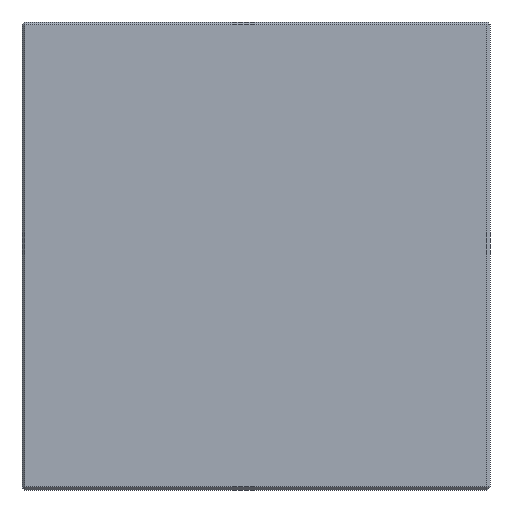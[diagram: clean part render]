
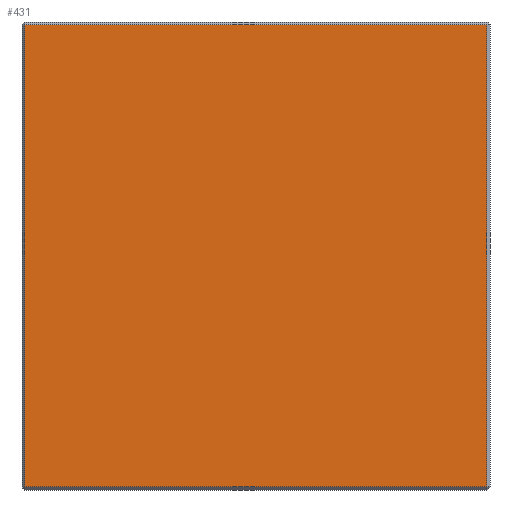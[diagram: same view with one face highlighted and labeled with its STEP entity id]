
A CAD part, front view. The second image highlights one B-rep face of the part: STEP entity #431.
In plain terms, the highlighted planar face has unit normal (0, -1, 0).
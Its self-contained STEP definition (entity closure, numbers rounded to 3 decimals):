
#20 = ORIENTED_EDGE ( 'NONE', *, *, #156, .T. ) ;
#26 = DIRECTION ( 'NONE',  ( 1., 0., 0. ) ) ;
#40 = ORIENTED_EDGE ( 'NONE', *, *, #337, .T. ) ;
#70 = VECTOR ( 'NONE', #209, 1000. ) ;
#85 = CARTESIAN_POINT ( 'NONE',  ( 0., 0., 77. ) ) ;
#116 = DIRECTION ( 'NONE',  ( -1., 0., 0. ) ) ;
#122 = EDGE_CURVE ( 'NONE', #382, #178, #248, .T. ) ;
#132 = LINE ( 'NONE', #412, #603 ) ;
#143 = CARTESIAN_POINT ( 'NONE',  ( 0., 0., 0. ) ) ;
#145 = DIRECTION ( 'NONE',  ( 0., 0., 1. ) ) ;
#156 = EDGE_CURVE ( 'NONE', #312, #382, #132, .T. ) ;
#165 = ORIENTED_EDGE ( 'NONE', *, *, #122, .T. ) ;
#172 = EDGE_CURVE ( 'NONE', #505, #312, #626, .T. ) ;
#178 = VERTEX_POINT ( 'NONE', #419 ) ;
#209 = DIRECTION ( 'NONE',  ( 0., 0., 1. ) ) ;
#230 = LINE ( 'NONE', #85, #361 ) ;
#234 = CARTESIAN_POINT ( 'NONE',  ( 77., 0., 0. ) ) ;
#248 = LINE ( 'NONE', #234, #70 ) ;
#294 = CARTESIAN_POINT ( 'NONE',  ( -77., 0., 0. ) ) ;
#301 = CARTESIAN_POINT ( 'NONE',  ( 77., 0., -77. ) ) ;
#308 = EDGE_LOOP ( 'NONE', ( #165, #40, #385, #20 ) ) ;
#312 = VERTEX_POINT ( 'NONE', #350 ) ;
#317 = PLANE ( 'NONE',  #595 ) ;
#337 = EDGE_CURVE ( 'NONE', #178, #505, #230, .T. ) ;
#350 = CARTESIAN_POINT ( 'NONE',  ( -77., 0., -77. ) ) ;
#361 = VECTOR ( 'NONE', #116, 1000. ) ;
#382 = VERTEX_POINT ( 'NONE', #301 ) ;
#385 = ORIENTED_EDGE ( 'NONE', *, *, #172, .T. ) ;
#412 = CARTESIAN_POINT ( 'NONE',  ( 0., 0., -77. ) ) ;
#419 = CARTESIAN_POINT ( 'NONE',  ( 77., 0., 77. ) ) ;
#421 = DIRECTION ( 'NONE',  ( 0., 1., 0. ) ) ;
#431 = ADVANCED_FACE ( 'NONE', ( #593 ), #317, .F. ) ;
#448 = DIRECTION ( 'NONE',  ( 0., 0., -1. ) ) ;
#479 = CARTESIAN_POINT ( 'NONE',  ( -77., 0., 77. ) ) ;
#505 = VERTEX_POINT ( 'NONE', #479 ) ;
#509 = VECTOR ( 'NONE', #448, 1000. ) ;
#593 = FACE_OUTER_BOUND ( 'NONE', #308, .T. ) ;
#595 = AXIS2_PLACEMENT_3D ( 'NONE', #143, #421, #145 ) ;
#603 = VECTOR ( 'NONE', #26, 1000. ) ;
#626 = LINE ( 'NONE', #294, #509 ) ;
